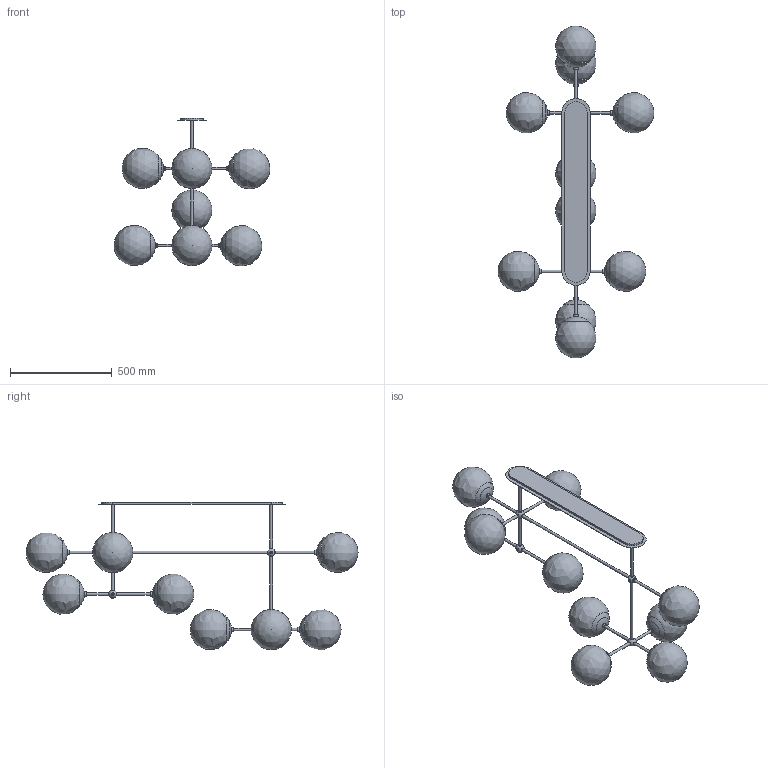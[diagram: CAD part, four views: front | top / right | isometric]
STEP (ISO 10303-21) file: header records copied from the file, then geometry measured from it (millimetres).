
FILE_DESCRIPTION(/* description */ (''),/* implementation_level */ '2;1');
FILE_NAME(/* name */ 'T:\B374 Globe Armstrong Chandelier MD\Pliki bryłowe handlowe\B374 Armstrong Linear 3D files_na stronę\B374 Armstrong Linear.stp',/* time_stamp */ '2022-02-02T15:51:12+01:00',/* author */ ('Mariusz Awariusz'),/* organization */ (''),/* preprocessor_version */ 'ST-DEVELOPER v18.1',/* originating_system */ 'Autodesk Inventor 2022',/* authorisation */ '');
FILE_SCHEMA (('AUTOMOTIVE_DESIGN { 1 0 10303 214 3 1 1 }'));
Length unit declared in the file: millimetre
Products named in the file (1): B374 Globe Armstrong Chandelier MD_CE_na potrzeby plików 3D_2_jak
o część_korpusy bryłowe
Bounding box: 767.71 x 1634.84 x 728.52 mm (x, y, z)
Volume: 4366685.9 mm3; surface area: 3304492.9 mm2
Topology: 59 solids, 59 shells, 529 faces, 941 edges, 606 vertices
Faces by surface type: plane 194, cylinder 179, cone 84, sphere 32, torus 20, bspline 20
Full cylindrical faces by diameter (mm): 11.6 x28, 11.917 x2, 13 x43, 13.1 x4, 13.5 x20, 14.7 x10, 16 x20, 20.6 x4, 22 x14, 23.1 x4, 23.5 x4, 80.221 x10
Entity records: 13924 total; most frequent: CARTESIAN_POINT 3147, DIRECTION 2527, ORIENTED_EDGE 1842, AXIS2_PLACEMENT_3D 1114, EDGE_CURVE 921, EDGE_LOOP 645, VERTEX_POINT 606, CIRCLE 604
